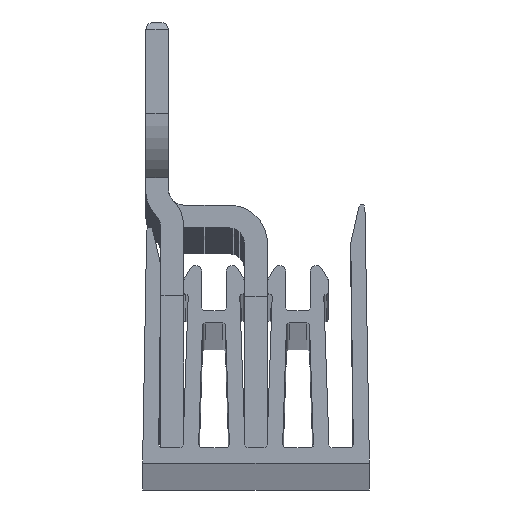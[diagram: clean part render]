
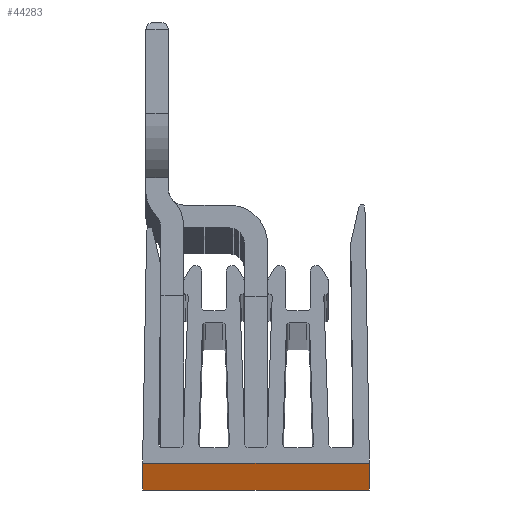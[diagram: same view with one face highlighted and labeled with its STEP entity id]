
A CAD part, top view. The second image highlights one B-rep face of the part: STEP entity #44283.
In plain terms, the highlighted planar face has unit normal (0, -1, 0).
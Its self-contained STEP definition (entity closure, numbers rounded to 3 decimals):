
#1230 = FACE_OUTER_BOUND ( 'NONE', #44284, .T. ) ;
#1310 = DIRECTION ( 'NONE',  ( 0., 0., -1. ) ) ;
#1311 = VECTOR ( 'NONE', #1310, 1000. ) ;
#1312 = CARTESIAN_POINT ( 'NONE',  ( -7.45, 0., 508. ) ) ;
#1313 = LINE ( 'NONE', #1312, #1311 ) ;
#1315 = CARTESIAN_POINT ( 'NONE',  ( 7.45, 0., 508. ) ) ;
#1316 = DIRECTION ( 'NONE',  ( 1., 0., 0. ) ) ;
#1317 = VECTOR ( 'NONE', #1316, 1000. ) ;
#1318 = CARTESIAN_POINT ( 'NONE',  ( 0., 0., -508. ) ) ;
#1319 = LINE ( 'NONE', #1318, #1317 ) ;
#1324 = DIRECTION ( 'NONE',  ( 1., 0., 0. ) ) ;
#1325 = VECTOR ( 'NONE', #1324, 1000. ) ;
#1326 = CARTESIAN_POINT ( 'NONE',  ( 0., 0., 508. ) ) ;
#1327 = LINE ( 'NONE', #1326, #1325 ) ;
#1332 = CARTESIAN_POINT ( 'NONE',  ( -7.45, 0., -508. ) ) ;
#1450 = CARTESIAN_POINT ( 'NONE',  ( -7.45, 0., 508. ) ) ;
#1478 = CARTESIAN_POINT ( 'NONE',  ( 7.45, 0., -508. ) ) ;
#1479 = DIRECTION ( 'NONE',  ( 0., 0., 1. ) ) ;
#1480 = DIRECTION ( 'NONE',  ( 0., 1., 0. ) ) ;
#1481 = CARTESIAN_POINT ( 'NONE',  ( 0., 0., 508. ) ) ;
#1482 = AXIS2_PLACEMENT_3D ( 'NONE', #1481, #1480, #1479 ) ;
#1483 = PLANE ( 'NONE',  #1482 ) ;
#1516 = DIRECTION ( 'NONE',  ( 0., 0., -1. ) ) ;
#1517 = VECTOR ( 'NONE', #1516, 1000. ) ;
#1518 = CARTESIAN_POINT ( 'NONE',  ( 7.45, 0., 508. ) ) ;
#1519 = LINE ( 'NONE', #1518, #1517 ) ;
#44224 = VERTEX_POINT ( 'NONE', #1332 ) ;
#44228 = EDGE_CURVE ( 'NONE', #44280, #44234, #1327, .T. ) ;
#44229 = ORIENTED_EDGE ( 'NONE', *, *, #44235, .T. ) ;
#44230 = ORIENTED_EDGE ( 'NONE', *, *, #44228, .F. ) ;
#44233 = EDGE_CURVE ( 'NONE', #44224, #44286, #1319, .T. ) ;
#44234 = VERTEX_POINT ( 'NONE', #1315 ) ;
#44235 = EDGE_CURVE ( 'NONE', #44280, #44224, #1313, .T. ) ;
#44280 = VERTEX_POINT ( 'NONE', #1450 ) ;
#44283 = ADVANCED_FACE ( 'NONE', ( #1230 ), #1483, .F. ) ;
#44284 = EDGE_LOOP ( 'NONE', ( #44285, #44295, #44230, #44229 ) ) ;
#44285 = ORIENTED_EDGE ( 'NONE', *, *, #44233, .T. ) ;
#44286 = VERTEX_POINT ( 'NONE', #1478 ) ;
#44294 = EDGE_CURVE ( 'NONE', #44234, #44286, #1519, .T. ) ;
#44295 = ORIENTED_EDGE ( 'NONE', *, *, #44294, .F. ) ;
